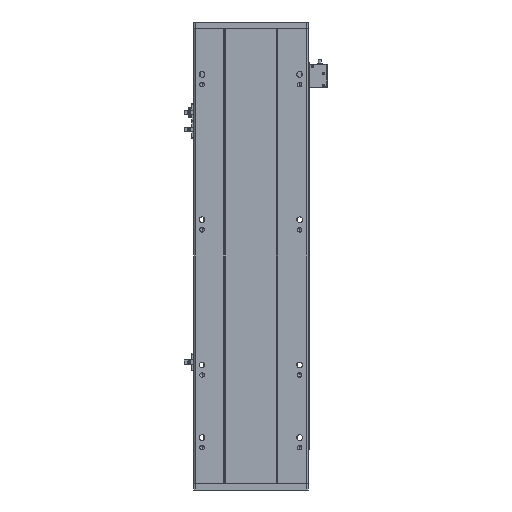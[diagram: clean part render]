
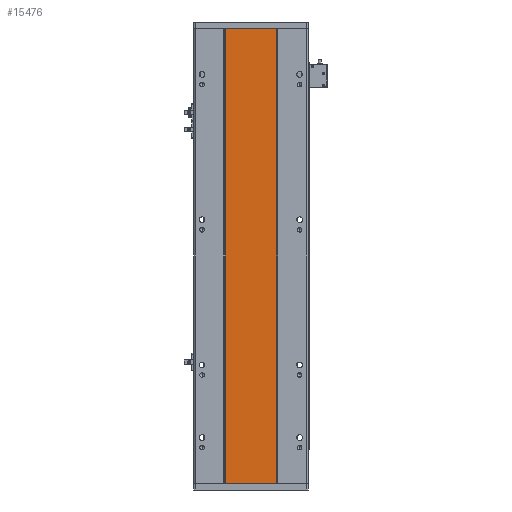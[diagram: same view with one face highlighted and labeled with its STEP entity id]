
A CAD part, front view. The second image highlights one B-rep face of the part: STEP entity #15476.
In plain terms, the highlighted planar face has unit normal (0, -1, 0).
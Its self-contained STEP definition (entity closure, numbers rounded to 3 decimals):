
#2948 = LINE ( 'NONE', #26557, #22660 ) ;
#3530 = ORIENTED_EDGE ( 'NONE', *, *, #17451, .F. ) ;
#4192 = CARTESIAN_POINT ( 'NONE',  ( 129.288, 16.9, 676. ) ) ;
#5129 = LINE ( 'NONE', #10765, #7962 ) ;
#5207 = VERTEX_POINT ( 'NONE', #12214 ) ;
#6429 = CARTESIAN_POINT ( 'NONE',  ( 205.288, 16.9, 676. ) ) ;
#7962 = VECTOR ( 'NONE', #12764, 1000. ) ;
#9208 = LINE ( 'NONE', #6429, #24341 ) ;
#10765 = CARTESIAN_POINT ( 'NONE',  ( 129.288, 16.9, 676. ) ) ;
#10901 = EDGE_CURVE ( 'NONE', #14569, #5207, #5129, .T. ) ;
#10945 = DIRECTION ( 'NONE',  ( 0., 0., -1. ) ) ;
#12214 = CARTESIAN_POINT ( 'NONE',  ( 129.288, 16.9, 0. ) ) ;
#12339 = EDGE_CURVE ( 'NONE', #5207, #24488, #2948, .T. ) ;
#12521 = VERTEX_POINT ( 'NONE', #15943 ) ;
#12764 = DIRECTION ( 'NONE',  ( 0., 0., -1. ) ) ;
#13941 = AXIS2_PLACEMENT_3D ( 'NONE', #24689, #20347, #17904 ) ;
#14567 = EDGE_CURVE ( 'NONE', #12521, #24488, #9208, .T. ) ;
#14569 = VERTEX_POINT ( 'NONE', #4192 ) ;
#15126 = ORIENTED_EDGE ( 'NONE', *, *, #12339, .T. ) ;
#15476 = ADVANCED_FACE ( 'NONE', ( #16944 ), #26842, .F. ) ;
#15943 = CARTESIAN_POINT ( 'NONE',  ( 205.288, 16.9, 676. ) ) ;
#16944 = FACE_OUTER_BOUND ( 'NONE', #22022, .T. ) ;
#17451 = EDGE_CURVE ( 'NONE', #14569, #12521, #23192, .T. ) ;
#17904 = DIRECTION ( 'NONE',  ( -1., 0., 0. ) ) ;
#19669 = DIRECTION ( 'NONE',  ( 1., 0., 0. ) ) ;
#20054 = CARTESIAN_POINT ( 'NONE',  ( 205.288, 16.9, 0. ) ) ;
#20347 = DIRECTION ( 'NONE',  ( 0., 1., 0. ) ) ;
#22022 = EDGE_LOOP ( 'NONE', ( #15126, #28385, #3530, #27985 ) ) ;
#22660 = VECTOR ( 'NONE', #19669, 1000. ) ;
#23192 = LINE ( 'NONE', #24580, #27050 ) ;
#24341 = VECTOR ( 'NONE', #10945, 1000. ) ;
#24488 = VERTEX_POINT ( 'NONE', #20054 ) ;
#24580 = CARTESIAN_POINT ( 'NONE',  ( 129.288, 16.9, 676. ) ) ;
#24689 = CARTESIAN_POINT ( 'NONE',  ( 205.288, 16.9, 676. ) ) ;
#26557 = CARTESIAN_POINT ( 'NONE',  ( 205.288, 16.9, 0. ) ) ;
#26842 = PLANE ( 'NONE',  #13941 ) ;
#27050 = VECTOR ( 'NONE', #29063, 1000. ) ;
#27985 = ORIENTED_EDGE ( 'NONE', *, *, #10901, .T. ) ;
#28385 = ORIENTED_EDGE ( 'NONE', *, *, #14567, .F. ) ;
#29063 = DIRECTION ( 'NONE',  ( 1., 0., 0. ) ) ;
